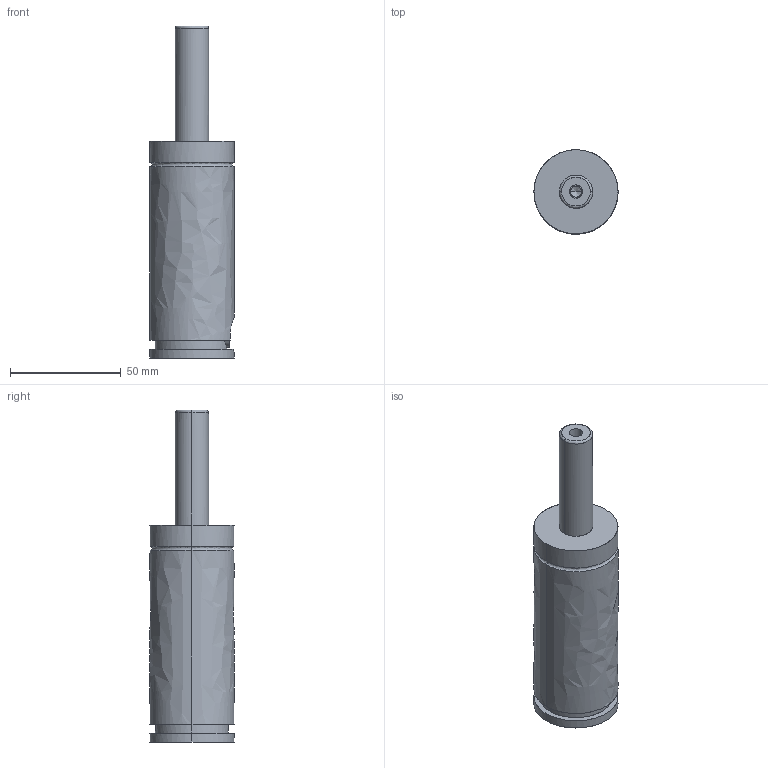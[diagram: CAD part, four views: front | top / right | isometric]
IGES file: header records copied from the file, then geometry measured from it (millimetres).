
Global section: file name: E:\UnigraphicsGraphicData\MISUMI_PRESS-PARTS\IGES\3d_gse38-50_03881_r00.igs; native system: NX V5.0; preprocessor: UGS NX IGES V5.0; author: MISUMI; date: 20110105.160756; units: millimetre
Bounding box: 38 x 38.02 x 150 mm (x, y, z)
Surface area: 18127.4 mm2 (no closed solid volume)
Topology: 0 solids, 0 shells, 57 faces, 430 edges, 428 vertices
Faces by surface type: bspline 57
